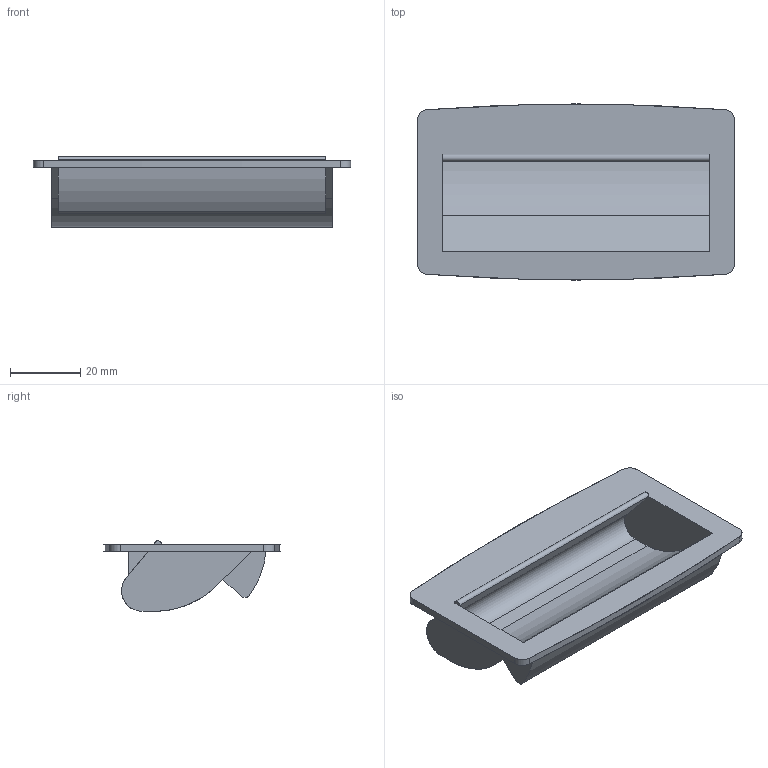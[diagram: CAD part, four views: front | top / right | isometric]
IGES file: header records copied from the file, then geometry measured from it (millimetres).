
Start section: SolidWorks IGES file using analytic representation for surfaces
Global section: file name: X:\11_SW2020-Inv2020\00_全2021-11新製品まで\e\EFPH90SL\efph90sl.IGS; native system: SolidWorks 2020; preprocessor: SolidWorks 2020; author: ImaoCorp; date: 211025.105706; units: millimetre
Bounding box: 90 x 50 x 20 mm (x, y, z)
Surface area: 17183.2 mm2 (no closed solid volume)
Topology: 0 solids, 0 shells, 63 faces, 540 edges, 540 vertices
Faces by surface type: bspline 50, revolution 13
